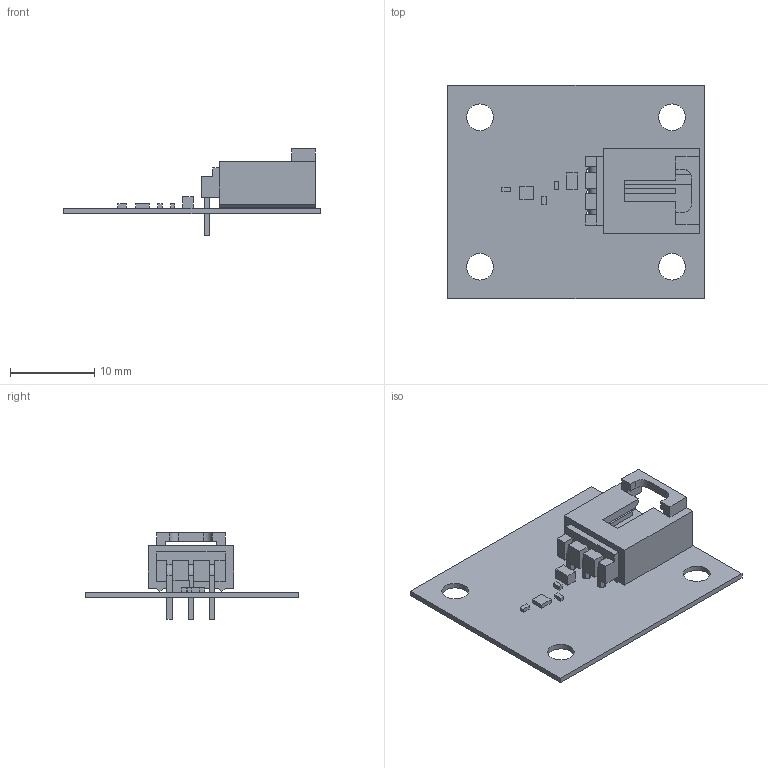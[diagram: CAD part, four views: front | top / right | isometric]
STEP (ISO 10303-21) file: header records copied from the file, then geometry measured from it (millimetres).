
FILE_DESCRIPTION(('Open CASCADE Model'),'2;1');
FILE_NAME('Open CASCADE Shape Model','2012-05-24T10:53:19',('Author'),( 'Open CASCADE'),'Open CASCADE STEP processor 6.2','Open CASCADE 6.2' ,'Unknown');
FILE_SCHEMA(('AUTOMOTIVE_DESIGN { 1 0 10303 214 1 1 1 1 }'));
Length unit declared in the file: millimetre
Products named in the file (19): PCB; Board; C1; 448263312; Extruded; C2; 701863920; C3; 701842800; J1; 705530002; Open CASCADE STEP translator 6.2 1.5.1.1; Open CASCADE STEP translator 6.2 1.5.1.2; R1; U1; 767213584
Assembly tree (19 placements, depth 4):
  PCB
    Board
    C1
      448263312
        Extruded
    C2
      701863920
        Extruded
    C3
      701842800
        Extruded
    J1
      705530002
        Open CASCADE STEP translator 6.2 1.5.1.1
        Open CASCADE STEP translator 6.2 1.5.1.2
    R1
      701842800
        Extruded
    U1
      767213584
        Extruded
Bounding box: 30.48 x 25.4 x 10.29 mm (x, y, z)
Volume: 884.8 mm3; surface area: 2407.1 mm2
Topology: 7 solids, 7 shells, 158 faces, 413 edges, 280 vertices
Faces by surface type: plane 143, cylinder 15
Full cylindrical faces by diameter (mm): 0.965 x3, 3.175 x4
Entity records: 10145 total; most frequent: CARTESIAN_POINT 1781, DIRECTION 1513, LINE 1087, VECTOR 1087, ORIENTED_EDGE 784, PCURVE 784, DEFINITIONAL_REPRESENTATION 784, EDGE_CURVE 392
